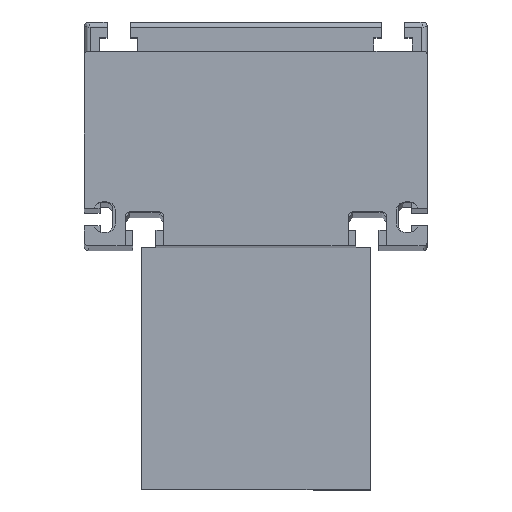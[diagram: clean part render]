
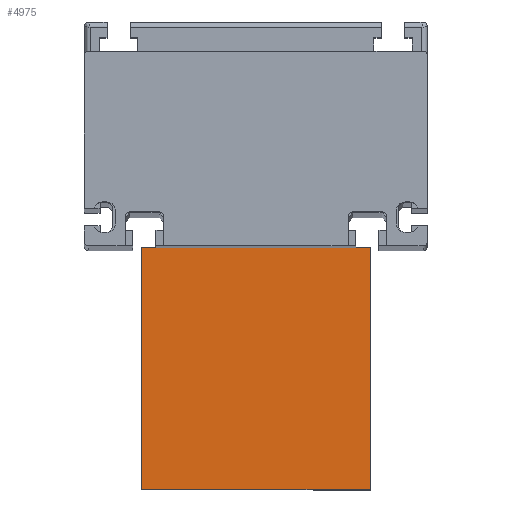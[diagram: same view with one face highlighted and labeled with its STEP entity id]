
A CAD part, top view. The second image highlights one B-rep face of the part: STEP entity #4975.
In plain terms, the highlighted planar face has unit normal (0, 0, 1) as drawn and (0, 0, -1) by its records, which use the part's own axes.
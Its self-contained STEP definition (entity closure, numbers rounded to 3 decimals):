
#204 = DIRECTION ( 'NONE',  ( 0., 1., 0. ) ) ;
#379 = EDGE_CURVE ( 'NONE', #8979, #873, #7771, .T. ) ;
#402 = DIRECTION ( 'NONE',  ( 0., 1., 0. ) ) ;
#715 = CARTESIAN_POINT ( 'NONE',  ( 40., 0., -65. ) ) ;
#873 = VERTEX_POINT ( 'NONE', #6300 ) ;
#976 = EDGE_LOOP ( 'NONE', ( #4292, #7015, #2922, #9686 ) ) ;
#1166 = VECTOR ( 'NONE', #204, 1000. ) ;
#1863 = VECTOR ( 'NONE', #402, 1000. ) ;
#2461 = CARTESIAN_POINT ( 'NONE',  ( -40., 84.5, -65. ) ) ;
#2560 = DIRECTION ( 'NONE',  ( 0., -1., 0. ) ) ;
#2672 = CARTESIAN_POINT ( 'NONE',  ( -40., 0., -65. ) ) ;
#2922 = ORIENTED_EDGE ( 'NONE', *, *, #379, .F. ) ;
#3077 = AXIS2_PLACEMENT_3D ( 'NONE', #715, #4359, #2560 ) ;
#3797 = VERTEX_POINT ( 'NONE', #2461 ) ;
#4292 = ORIENTED_EDGE ( 'NONE', *, *, #10192, .T. ) ;
#4359 = DIRECTION ( 'NONE',  ( 0., 0., 1. ) ) ;
#4586 = LINE ( 'NONE', #10115, #11541 ) ;
#4587 = FACE_OUTER_BOUND ( 'NONE', #976, .T. ) ;
#4975 = ADVANCED_FACE ( 'NONE', ( #4587 ), #10894, .F. ) ;
#5789 = CARTESIAN_POINT ( 'NONE',  ( 40., 0., -65. ) ) ;
#6300 = CARTESIAN_POINT ( 'NONE',  ( 40., 84.5, -65. ) ) ;
#6491 = CARTESIAN_POINT ( 'NONE',  ( -40., 0., -65. ) ) ;
#6672 = LINE ( 'NONE', #11355, #8434 ) ;
#7015 = ORIENTED_EDGE ( 'NONE', *, *, #10254, .F. ) ;
#7575 = DIRECTION ( 'NONE',  ( -1., 0., 0. ) ) ;
#7771 = LINE ( 'NONE', #5789, #1863 ) ;
#8434 = VECTOR ( 'NONE', #7575, 1000. ) ;
#8979 = VERTEX_POINT ( 'NONE', #11151 ) ;
#9311 = LINE ( 'NONE', #6491, #1166 ) ;
#9469 = EDGE_CURVE ( 'NONE', #8979, #11766, #4586, .T. ) ;
#9686 = ORIENTED_EDGE ( 'NONE', *, *, #9469, .T. ) ;
#10115 = CARTESIAN_POINT ( 'NONE',  ( 40., 0., -65. ) ) ;
#10192 = EDGE_CURVE ( 'NONE', #11766, #3797, #9311, .T. ) ;
#10254 = EDGE_CURVE ( 'NONE', #873, #3797, #6672, .T. ) ;
#10894 = PLANE ( 'NONE',  #3077 ) ;
#10962 = DIRECTION ( 'NONE',  ( -1., 0., 0. ) ) ;
#11151 = CARTESIAN_POINT ( 'NONE',  ( 40., 0., -65. ) ) ;
#11355 = CARTESIAN_POINT ( 'NONE',  ( 40., 84.5, -65. ) ) ;
#11541 = VECTOR ( 'NONE', #10962, 1000. ) ;
#11766 = VERTEX_POINT ( 'NONE', #2672 ) ;
